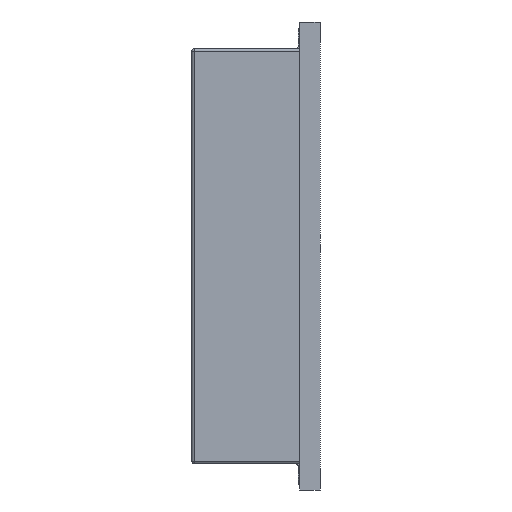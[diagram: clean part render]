
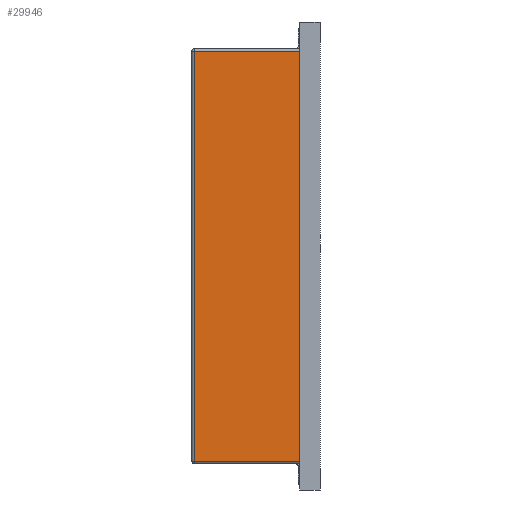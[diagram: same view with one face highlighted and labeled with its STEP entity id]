
A CAD part, left-side view. The second image highlights one B-rep face of the part: STEP entity #29946.
In plain terms, the highlighted planar face has unit normal (-1, 0, 0) as drawn and (0, 1, 0) by its records, which use the part's own axes.
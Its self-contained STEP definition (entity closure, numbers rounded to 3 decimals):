
#1392 = EDGE_CURVE ( 'NONE', #19576, #12779, #21530, .T. ) ;
#1839 = CARTESIAN_POINT ( 'NONE',  ( -100.8, 65.5, 53. ) ) ;
#2615 = VECTOR ( 'NONE', #35587, 1000. ) ;
#3037 = EDGE_CURVE ( 'NONE', #31409, #19576, #34857, .T. ) ;
#4809 = DIRECTION ( 'NONE',  ( -1., 0., 0. ) ) ;
#6294 = LINE ( 'NONE', #25211, #22151 ) ;
#6757 = CARTESIAN_POINT ( 'NONE',  ( 102., 65.5, 0. ) ) ;
#7066 = CARTESIAN_POINT ( 'NONE',  ( 100.8, 65.5, 53. ) ) ;
#12779 = VERTEX_POINT ( 'NONE', #27169 ) ;
#13502 = EDGE_CURVE ( 'NONE', #34759, #12779, #18035, .T. ) ;
#13787 = VECTOR ( 'NONE', #26642, 1000. ) ;
#18035 = LINE ( 'NONE', #18358, #2615 ) ;
#18358 = CARTESIAN_POINT ( 'NONE',  ( -100.8, 65.5, -69.091 ) ) ;
#19576 = VERTEX_POINT ( 'NONE', #33271 ) ;
#21530 = LINE ( 'NONE', #27018, #13787 ) ;
#21934 = EDGE_CURVE ( 'NONE', #31409, #34759, #6294, .T. ) ;
#22151 = VECTOR ( 'NONE', #4809, 1000. ) ;
#25211 = CARTESIAN_POINT ( 'NONE',  ( 0., 65.5, 53. ) ) ;
#26642 = DIRECTION ( 'NONE',  ( -1., 0., 0. ) ) ;
#27018 = CARTESIAN_POINT ( 'NONE',  ( 102., 65.5, 1.2 ) ) ;
#27055 = PLANE ( 'NONE',  #28393 ) ;
#27169 = CARTESIAN_POINT ( 'NONE',  ( -100.8, 65.5, 1.2 ) ) ;
#27430 = DIRECTION ( 'NONE',  ( 0., 0., 1. ) ) ;
#27608 = CARTESIAN_POINT ( 'NONE',  ( 100.8, 65.5, 0. ) ) ;
#28355 = DIRECTION ( 'NONE',  ( 0., 0., -1. ) ) ;
#28393 = AXIS2_PLACEMENT_3D ( 'NONE', #6757, #32877, #27430 ) ;
#28658 = ORIENTED_EDGE ( 'NONE', *, *, #21934, .F. ) ;
#28972 = VECTOR ( 'NONE', #28355, 1000. ) ;
#29946 = ADVANCED_FACE ( 'NONE', ( #32308 ), #27055, .T. ) ;
#31409 = VERTEX_POINT ( 'NONE', #7066 ) ;
#31436 = ORIENTED_EDGE ( 'NONE', *, *, #1392, .T. ) ;
#32308 = FACE_OUTER_BOUND ( 'NONE', #32378, .T. ) ;
#32378 = EDGE_LOOP ( 'NONE', ( #31436, #34568, #28658, #33903 ) ) ;
#32877 = DIRECTION ( 'NONE',  ( 0., 1., 0. ) ) ;
#33271 = CARTESIAN_POINT ( 'NONE',  ( 100.8, 65.5, 1.2 ) ) ;
#33903 = ORIENTED_EDGE ( 'NONE', *, *, #3037, .T. ) ;
#34568 = ORIENTED_EDGE ( 'NONE', *, *, #13502, .F. ) ;
#34759 = VERTEX_POINT ( 'NONE', #1839 ) ;
#34857 = LINE ( 'NONE', #27608, #28972 ) ;
#35587 = DIRECTION ( 'NONE',  ( 0., 0., -1. ) ) ;
